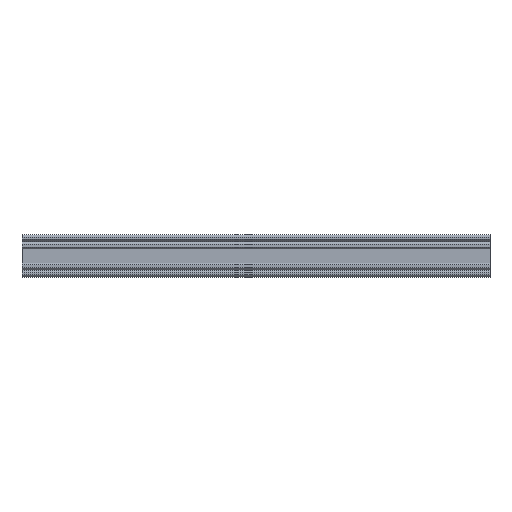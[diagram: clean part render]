
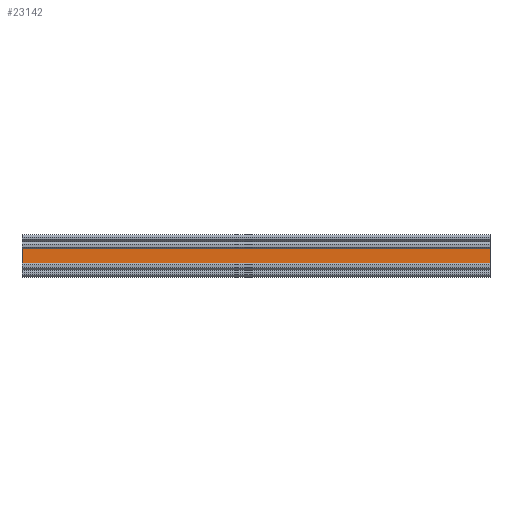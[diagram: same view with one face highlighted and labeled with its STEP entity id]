
A CAD part, left-side view. The second image highlights one B-rep face of the part: STEP entity #23142.
In plain terms, the highlighted planar face has unit normal (-1, 0, 0).
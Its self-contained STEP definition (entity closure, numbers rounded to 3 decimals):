
#3482 = DIRECTION ( 'NONE',  ( 0., 1., 0. ) ) ;
#4330 = EDGE_CURVE ( 'NONE', #29562, #54504, #47550, .T. ) ;
#4550 = AXIS2_PLACEMENT_3D ( 'NONE', #16059, #33147, #28915 ) ;
#6287 = EDGE_LOOP ( 'NONE', ( #27006, #27753, #11873, #16715 ) ) ;
#9305 = EDGE_CURVE ( 'NONE', #13705, #54193, #32751, .T. ) ;
#10380 = VECTOR ( 'NONE', #26888, 1000. ) ;
#11873 = ORIENTED_EDGE ( 'NONE', *, *, #4330, .F. ) ;
#13705 = VERTEX_POINT ( 'NONE', #46523 ) ;
#16059 = CARTESIAN_POINT ( 'NONE',  ( -8., -132., 5.525 ) ) ;
#16715 = ORIENTED_EDGE ( 'NONE', *, *, #22358, .T. ) ;
#20622 = CARTESIAN_POINT ( 'NONE',  ( -8., -132., -5.525 ) ) ;
#22358 = EDGE_CURVE ( 'NONE', #29562, #13705, #41040, .T. ) ;
#22586 = VECTOR ( 'NONE', #3482, 1000. ) ;
#23142 = ADVANCED_FACE ( 'NONE', ( #36365 ), #45660, .F. ) ;
#23525 = VECTOR ( 'NONE', #46172, 1000. ) ;
#26828 = LINE ( 'NONE', #20622, #23525 ) ;
#26888 = DIRECTION ( 'NONE',  ( 0., 0., -1. ) ) ;
#27006 = ORIENTED_EDGE ( 'NONE', *, *, #9305, .T. ) ;
#27753 = ORIENTED_EDGE ( 'NONE', *, *, #40828, .F. ) ;
#28915 = DIRECTION ( 'NONE',  ( 0., 0., -1. ) ) ;
#29562 = VERTEX_POINT ( 'NONE', #33193 ) ;
#32751 = LINE ( 'NONE', #43817, #10380 ) ;
#33147 = DIRECTION ( 'NONE',  ( 1., 0., 0. ) ) ;
#33193 = CARTESIAN_POINT ( 'NONE',  ( -8., -132., 5.525 ) ) ;
#34403 = DIRECTION ( 'NONE',  ( 0., 0., -1. ) ) ;
#36330 = VECTOR ( 'NONE', #34403, 1000. ) ;
#36365 = FACE_OUTER_BOUND ( 'NONE', #6287, .T. ) ;
#40828 = EDGE_CURVE ( 'NONE', #54504, #54193, #26828, .T. ) ;
#41040 = LINE ( 'NONE', #41572, #22586 ) ;
#41572 = CARTESIAN_POINT ( 'NONE',  ( -8., -132., 5.525 ) ) ;
#43817 = CARTESIAN_POINT ( 'NONE',  ( -8., 132., 5.525 ) ) ;
#45660 = PLANE ( 'NONE',  #4550 ) ;
#46151 = CARTESIAN_POINT ( 'NONE',  ( -8., 132., -5.525 ) ) ;
#46172 = DIRECTION ( 'NONE',  ( 0., 1., 0. ) ) ;
#46523 = CARTESIAN_POINT ( 'NONE',  ( -8., 132., 5.525 ) ) ;
#47474 = CARTESIAN_POINT ( 'NONE',  ( -8., -132., -5.525 ) ) ;
#47550 = LINE ( 'NONE', #51710, #36330 ) ;
#51710 = CARTESIAN_POINT ( 'NONE',  ( -8., -132., 5.525 ) ) ;
#54193 = VERTEX_POINT ( 'NONE', #46151 ) ;
#54504 = VERTEX_POINT ( 'NONE', #47474 ) ;
